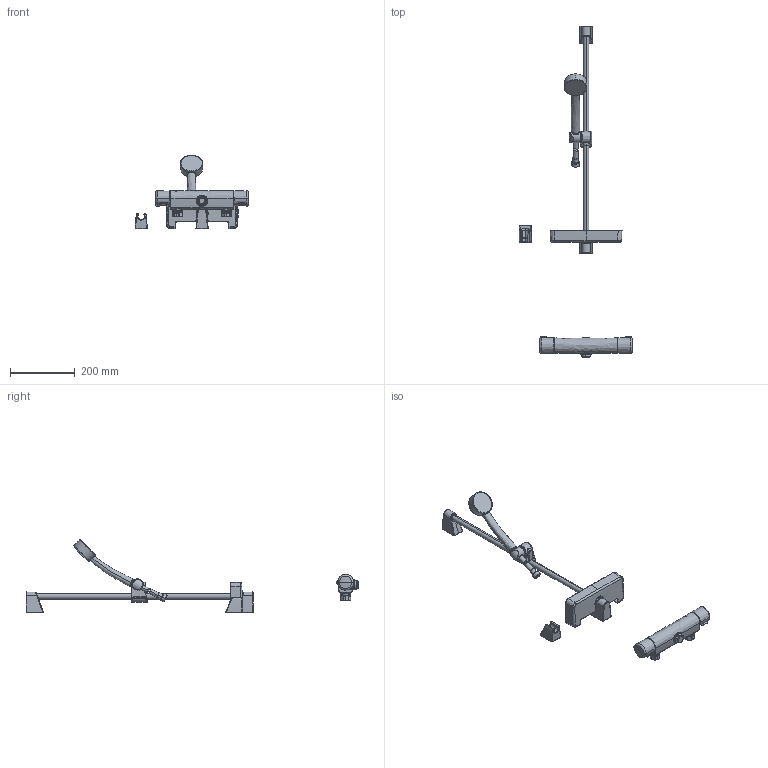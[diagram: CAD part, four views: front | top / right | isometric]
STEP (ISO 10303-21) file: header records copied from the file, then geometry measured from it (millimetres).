
FILE_DESCRIPTION (( 'STEP AP203' ), '1' );
FILE_NAME ('7495(2016).STEP', '2018-05-03T05:24:38', ( '' ), ( '' ), 'SwSTEP 2.0', 'SolidWorks 2016', '' );
FILE_SCHEMA (( 'CONFIG_CONTROL_DESIGN' ));
Length unit declared in the file: millimetre
Products named in the file (1): 7495(2016)
Bounding box: 351.44 x 1024.12 x 225.77 mm (x, y, z)
Volume: 1493025 mm3; surface area: 275451 mm2
Topology: 23 solids, 23 shells, 1008 faces, 2341 edges, 1371 vertices
Faces by surface type: bspline 525, cylinder 129, torus 120, plane 108, cone 81, sphere 45
Entity records: 62980 total; most frequent: CARTESIAN_POINT 44193, ORIENTED_EDGE 4608, DIRECTION 2948, EDGE_CURVE 2304, VERTEX_POINT 1363, AXIS2_PLACEMENT_3D 1348, B_SPLINE_CURVE_WITH_KNOTS 1126, EDGE_LOOP 1027
